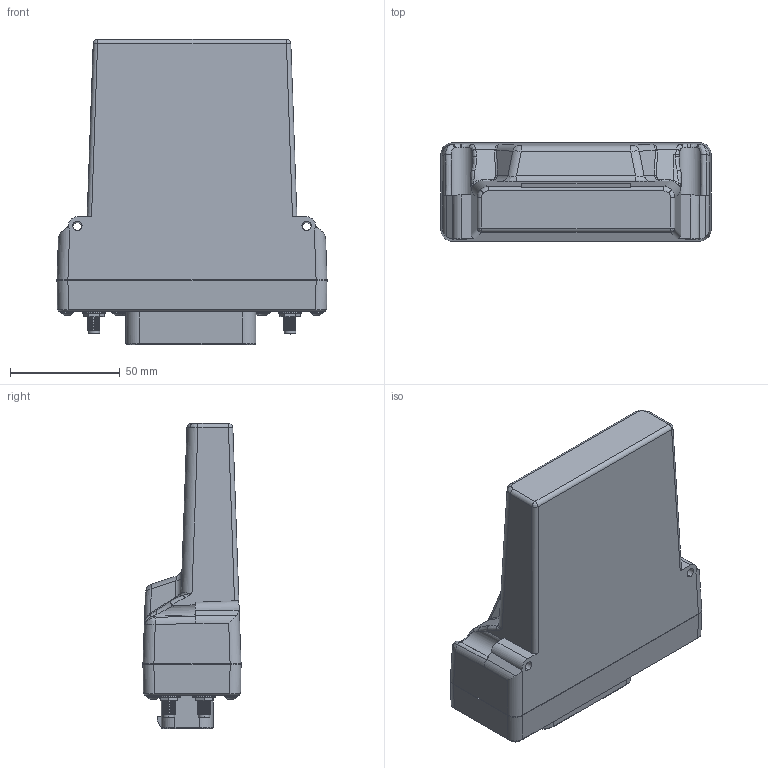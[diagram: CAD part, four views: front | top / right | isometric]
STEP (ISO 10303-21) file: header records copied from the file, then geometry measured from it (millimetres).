
FILE_DESCRIPTION (( 'STEP AP214' ), '1' );
FILE_NAME ('CL-T27-0##.STEP', '2023-12-01T14:33:21', ( '' ), ( '' ), 'SwSTEP 2.0', 'SolidWorks 2023', '' );
FILE_SCHEMA (( 'AUTOMOTIVE_DESIGN' ));
Length unit declared in the file: millimetre
Products named in the file (12): SCREW, CONNECTOR; EAD_M2MAC-UF-10-SFPOR_antenna port_Lead1; EAD_M2MAC-UF-10-SFPOR_antenna port_No wires; ANTENNA PIN; CL-T27_blankPCB; HOUSING, PLASTIC; HEADDER, CONNECTOR; EAD_M2MAC-UF-10-SFPOR_antenna port_lock_nut_92174A661; EAD_M2MAC-UF-10-SFPOR_antenna port_lock_washer_92165A029; CL-T27_COVERwDIVERSITY; CL-T27-0##; CL-T27 HEADER
Assembly tree (20 placements, depth 4):
  CL-T27-0##
    CL-T27_blankPCB
    CL-T27 HEADER
      CL-T27_COVERwDIVERSITY
      HEADDER, CONNECTOR
      SCREW, CONNECTOR  x4
      EAD_M2MAC-UF-10-SFPOR_antenna port_Lead1  x3
        EAD_M2MAC-UF-10-SFPOR_antenna port_No wires
        EAD_M2MAC-UF-10-SFPOR_antenna port_lock_washer_92165A029
        EAD_M2MAC-UF-10-SFPOR_antenna port_lock_nut_92174A661
      ANTENNA PIN
    HOUSING, PLASTIC
    SCREW, CONNECTOR  x4
Bounding box: 123.3 x 44.8 x 139.28 mm (x, y, z)
Volume: 160204.9 mm3; surface area: 127175.2 mm2
Topology: 45 solids, 45 shells, 3148 faces, 8001 edges, 5110 vertices
Faces by surface type: cylinder 1200, plane 1114, bspline 430, cone 152, torus 136, sphere 116
Entity records: 108684 total; most frequent: CARTESIAN_POINT 59867, ORIENTED_EDGE 10562, DIRECTION 9233, EDGE_CURVE 5281, VERTEX_POINT 3426, AXIS2_PLACEMENT_3D 3153, LINE 2927, VECTOR 2927
